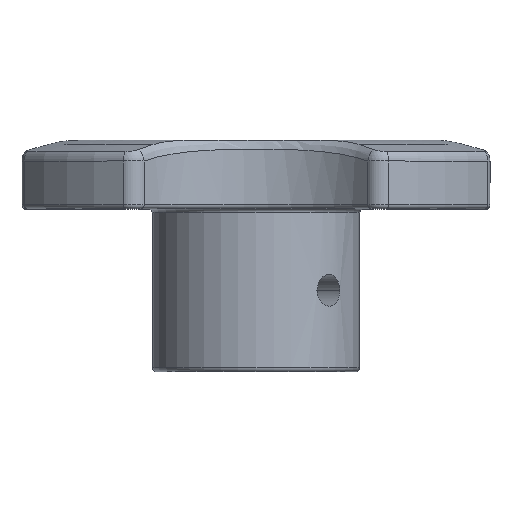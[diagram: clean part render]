
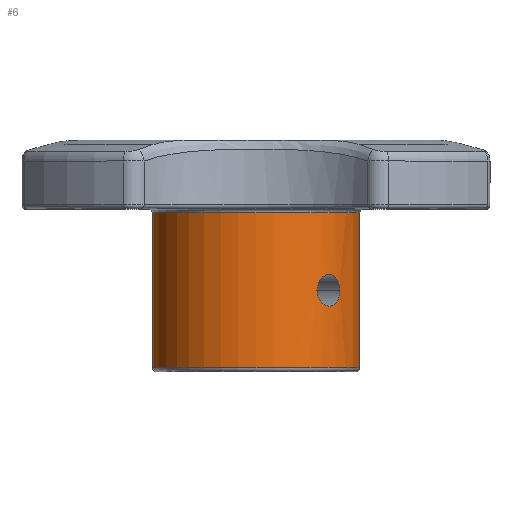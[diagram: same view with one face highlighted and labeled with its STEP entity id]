
A CAD part, top view. The second image highlights one B-rep face of the part: STEP entity #6.
In plain terms, the highlighted cylindrical face has radius 13 mm (diameter 26 mm), a partial arc.
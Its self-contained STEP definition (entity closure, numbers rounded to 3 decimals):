
#6 = ADVANCED_FACE ( 'NONE', ( #2553, #757 ), #3328, .T. ) ;
#17 = CARTESIAN_POINT ( 'NONE',  ( 0., 0.5, 0. ) ) ;
#139 = CARTESIAN_POINT ( 'NONE',  ( 7.883, 9.198, 10.338 ) ) ;
#151 = CARTESIAN_POINT ( 'NONE',  ( 9.551, 8.264, 8.82 ) ) ;
#171 = DIRECTION ( 'NONE',  ( 0., 1., 0. ) ) ;
#219 = CARTESIAN_POINT ( 'NONE',  ( 9.558, 12.147, 8.815 ) ) ;
#233 = CARTESIAN_POINT ( 'NONE',  ( 7.833, 11.087, 10.375 ) ) ;
#336 = B_SPLINE_CURVE_WITH_KNOTS ( 'NONE', 3,
 ( #732, #940, #1764, #2525, #984, #2769, #1232, #3038, #1509, #3304, #1777, #219, #2035, #481, #2291, #746, #2539, #996, #2783, #1252, #3047, #1520, #3319, #1791, #233, #2051, #496, #2299, #758, #2552 ),
 .UNSPECIFIED., .F., .F.,
 ( 4, 2, 2, 2, 2, 2, 2, 2, 2, 2, 2, 2, 2, 2, 4 ),
 ( 0., 0., 0.001, 0.001, 0.002, 0.002, 0.003, 0.004, 0.004, 0.004, 0.005, 0.005, 0.005, 0.006, 0.006 ),
 .UNSPECIFIED. ) ;
#407 = CARTESIAN_POINT ( 'NONE',  ( 8.065, 8.879, 10.196 ) ) ;
#420 = CARTESIAN_POINT ( 'NONE',  ( 9.798, 8.402, 8.545 ) ) ;
#481 = CARTESIAN_POINT ( 'NONE',  ( 9.101, 12.2, 9.284 ) ) ;
#496 = CARTESIAN_POINT ( 'NONE',  ( 7.721, 10.72, 10.459 ) ) ;
#570 = AXIS2_PLACEMENT_3D ( 'NONE', #1418, #3216, #1689 ) ;
#580 = EDGE_LOOP ( 'NONE', ( #3051, #1790 ) ) ;
#588 = VERTEX_POINT ( 'NONE', #898 ) ;
#601 = EDGE_CURVE ( 'NONE', #588, #2276, #628, .T. ) ;
#628 = CIRCLE ( 'NONE', #2939, 13. ) ;
#646 = CARTESIAN_POINT ( 'NONE',  ( -13., 19.9, 0. ) ) ;
#670 = CARTESIAN_POINT ( 'NONE',  ( 8.289, 8.61, 10.015 ) ) ;
#678 = CARTESIAN_POINT ( 'NONE',  ( 10.014, 8.609, 8.291 ) ) ;
#732 = CARTESIAN_POINT ( 'NONE',  ( 10.497, 10.2, 7.669 ) ) ;
#746 = CARTESIAN_POINT ( 'NONE',  ( 8.818, 12.136, 9.553 ) ) ;
#752 = CARTESIAN_POINT ( 'NONE',  ( 13., 0., 0. ) ) ;
#757 = FACE_OUTER_BOUND ( 'NONE', #1196, .T. ) ;
#758 = CARTESIAN_POINT ( 'NONE',  ( 7.669, 10.331, 10.497 ) ) ;
#842 = VECTOR ( 'NONE', #1993, 1000. ) ;
#898 = CARTESIAN_POINT ( 'NONE',  ( -13., 0.5, 0. ) ) ;
#912 = CARTESIAN_POINT ( 'NONE',  ( 8.543, 8.403, 9.8 ) ) ;
#928 = CARTESIAN_POINT ( 'NONE',  ( 10.253, 8.969, 7.994 ) ) ;
#940 = CARTESIAN_POINT ( 'NONE',  ( 10.497, 10.332, 7.669 ) ) ;
#984 = CARTESIAN_POINT ( 'NONE',  ( 10.436, 10.846, 7.752 ) ) ;
#996 = CARTESIAN_POINT ( 'NONE',  ( 8.545, 11.998, 9.798 ) ) ;
#1054 = AXIS2_PLACEMENT_3D ( 'NONE', #1964, #1443, #1717 ) ;
#1117 = LINE ( 'NONE', #1980, #2489 ) ;
#1149 = ORIENTED_EDGE ( 'NONE', *, *, #3200, .T. ) ;
#1173 = CARTESIAN_POINT ( 'NONE',  ( 8.818, 8.264, 9.553 ) ) ;
#1181 = CARTESIAN_POINT ( 'NONE',  ( 10.466, 9.672, 7.713 ) ) ;
#1196 = EDGE_LOOP ( 'NONE', ( #2447, #1149, #1869, #3208 ) ) ;
#1232 = CARTESIAN_POINT ( 'NONE',  ( 10.337, 11.202, 7.883 ) ) ;
#1252 = CARTESIAN_POINT ( 'NONE',  ( 8.29, 11.79, 10.015 ) ) ;
#1285 = CIRCLE ( 'NONE', #570, 13. ) ;
#1418 = CARTESIAN_POINT ( 'NONE',  ( 0., 19.9, 0. ) ) ;
#1434 = CARTESIAN_POINT ( 'NONE',  ( 9.098, 8.2, 9.287 ) ) ;
#1443 = DIRECTION ( 'NONE',  ( 0., 1., 0. ) ) ;
#1452 = CARTESIAN_POINT ( 'NONE',  ( 10.497, 10.2, 7.669 ) ) ;
#1509 = CARTESIAN_POINT ( 'NONE',  ( 10.196, 11.522, 8.066 ) ) ;
#1520 = CARTESIAN_POINT ( 'NONE',  ( 8.065, 11.521, 10.196 ) ) ;
#1604 = EDGE_CURVE ( 'NONE', #1699, #2871, #1285, .T. ) ;
#1639 = EDGE_CURVE ( 'NONE', #588, #2871, #1117, .T. ) ;
#1682 = CARTESIAN_POINT ( 'NONE',  ( 7.669, 9.939, 10.497 ) ) ;
#1689 = DIRECTION ( 'NONE',  ( 1., 0., 0. ) ) ;
#1698 = CARTESIAN_POINT ( 'NONE',  ( 7.833, 9.314, 10.375 ) ) ;
#1699 = VERTEX_POINT ( 'NONE', #2007 ) ;
#1711 = CARTESIAN_POINT ( 'NONE',  ( 9.375, 8.213, 9.006 ) ) ;
#1717 = DIRECTION ( 'NONE',  ( -1., 0., 0. ) ) ;
#1764 = CARTESIAN_POINT ( 'NONE',  ( 10.489, 10.462, 7.679 ) ) ;
#1777 = CARTESIAN_POINT ( 'NONE',  ( 9.878, 11.948, 8.454 ) ) ;
#1790 = ORIENTED_EDGE ( 'NONE', *, *, #2894, .F. ) ;
#1791 = CARTESIAN_POINT ( 'NONE',  ( 7.884, 11.204, 10.337 ) ) ;
#1869 = ORIENTED_EDGE ( 'NONE', *, *, #1604, .T. ) ;
#1956 = CARTESIAN_POINT ( 'NONE',  ( 7.999, 8.98, 10.248 ) ) ;
#1960 = CARTESIAN_POINT ( 'NONE',  ( 9.637, 8.302, 8.726 ) ) ;
#1964 = CARTESIAN_POINT ( 'NONE',  ( 0., 0., 0. ) ) ;
#1980 = CARTESIAN_POINT ( 'NONE',  ( -13., 0., 0. ) ) ;
#1993 = DIRECTION ( 'NONE',  ( 0., 1., 0. ) ) ;
#2007 = CARTESIAN_POINT ( 'NONE',  ( 13., 19.9, 0. ) ) ;
#2008 = EDGE_CURVE ( 'NONE', #2855, #3321, #336, .T. ) ;
#2035 = CARTESIAN_POINT ( 'NONE',  ( 9.378, 12.2, 9.007 ) ) ;
#2051 = CARTESIAN_POINT ( 'NONE',  ( 7.752, 10.845, 10.436 ) ) ;
#2202 = CARTESIAN_POINT ( 'NONE',  ( 7.669, 10.2, 10.497 ) ) ;
#2213 = LINE ( 'NONE', #752, #842 ) ;
#2214 = CARTESIAN_POINT ( 'NONE',  ( 8.209, 8.694, 10.08 ) ) ;
#2231 = CARTESIAN_POINT ( 'NONE',  ( 9.873, 8.464, 8.458 ) ) ;
#2276 = VERTEX_POINT ( 'NONE', #3156 ) ;
#2278 = DIRECTION ( 'NONE',  ( 0., 1., 0. ) ) ;
#2291 = CARTESIAN_POINT ( 'NONE',  ( 9.005, 12.187, 9.377 ) ) ;
#2299 = CARTESIAN_POINT ( 'NONE',  ( 7.679, 10.463, 10.489 ) ) ;
#2447 = ORIENTED_EDGE ( 'NONE', *, *, #601, .T. ) ;
#2463 = CARTESIAN_POINT ( 'NONE',  ( 8.456, 8.465, 9.875 ) ) ;
#2474 = CARTESIAN_POINT ( 'NONE',  ( 10.079, 8.693, 8.211 ) ) ;
#2489 = VECTOR ( 'NONE', #171, 1000. ) ;
#2525 = CARTESIAN_POINT ( 'NONE',  ( 10.459, 10.718, 7.721 ) ) ;
#2539 = CARTESIAN_POINT ( 'NONE',  ( 8.726, 12.098, 9.637 ) ) ;
#2552 = CARTESIAN_POINT ( 'NONE',  ( 7.669, 10.2, 10.497 ) ) ;
#2553 = FACE_BOUND ( 'NONE', #580, .T. ) ;
#2704 = CARTESIAN_POINT ( 'NONE',  ( 8.724, 8.303, 9.639 ) ) ;
#2719 = CARTESIAN_POINT ( 'NONE',  ( 10.344, 9.192, 7.874 ) ) ;
#2769 = CARTESIAN_POINT ( 'NONE',  ( 10.375, 11.088, 7.834 ) ) ;
#2783 = CARTESIAN_POINT ( 'NONE',  ( 8.456, 11.935, 9.875 ) ) ;
#2809 = CARTESIAN_POINT ( 'NONE',  ( 7.669, 10.2, 10.497 ) ) ;
#2855 = VERTEX_POINT ( 'NONE', #2931 ) ;
#2871 = VERTEX_POINT ( 'NONE', #646 ) ;
#2894 = EDGE_CURVE ( 'NONE', #3321, #2855, #2948, .T. ) ;
#2931 = CARTESIAN_POINT ( 'NONE',  ( 10.497, 10.2, 7.669 ) ) ;
#2939 = AXIS2_PLACEMENT_3D ( 'NONE', #17, #2278, #3305 ) ;
#2948 = B_SPLINE_CURVE_WITH_KNOTS ( 'NONE', 3,
 ( #2202, #1682, #3223, #1698, #139, #1956, #407, #2214, #670, #2463, #912, #2704, #1173, #2968, #1434, #3233, #1711, #151, #1960, #420, #2231, #678, #2474, #928, #2719, #1181, #2981, #1452 ),
 .UNSPECIFIED., .F., .F.,
 ( 4, 2, 2, 2, 2, 2, 2, 2, 2, 2, 2, 2, 2, 4 ),
 ( 0.006, 0.007, 0.007, 0.008, 0.008, 0.009, 0.009, 0.009, 0.01, 0.01, 0.011, 0.011, 0.012, 0.013 ),
 .UNSPECIFIED. ) ;
#2968 = CARTESIAN_POINT ( 'NONE',  ( 9.004, 8.213, 9.378 ) ) ;
#2981 = CARTESIAN_POINT ( 'NONE',  ( 10.497, 9.935, 7.669 ) ) ;
#3038 = CARTESIAN_POINT ( 'NONE',  ( 10.248, 11.42, 7.999 ) ) ;
#3047 = CARTESIAN_POINT ( 'NONE',  ( 8.211, 11.707, 10.079 ) ) ;
#3051 = ORIENTED_EDGE ( 'NONE', *, *, #2008, .F. ) ;
#3156 = CARTESIAN_POINT ( 'NONE',  ( 13., 0.5, 0. ) ) ;
#3200 = EDGE_CURVE ( 'NONE', #2276, #1699, #2213, .T. ) ;
#3208 = ORIENTED_EDGE ( 'NONE', *, *, #1639, .F. ) ;
#3216 = DIRECTION ( 'NONE',  ( 0., -1., 0. ) ) ;
#3223 = CARTESIAN_POINT ( 'NONE',  ( 7.712, 9.675, 10.466 ) ) ;
#3233 = CARTESIAN_POINT ( 'NONE',  ( 9.285, 8.2, 9.1 ) ) ;
#3304 = CARTESIAN_POINT ( 'NONE',  ( 10.022, 11.799, 8.283 ) ) ;
#3305 = DIRECTION ( 'NONE',  ( 1., 0., 0. ) ) ;
#3319 = CARTESIAN_POINT ( 'NONE',  ( 7.999, 11.42, 10.248 ) ) ;
#3321 = VERTEX_POINT ( 'NONE', #2809 ) ;
#3328 = CYLINDRICAL_SURFACE ( 'NONE', #1054, 13. ) ;
